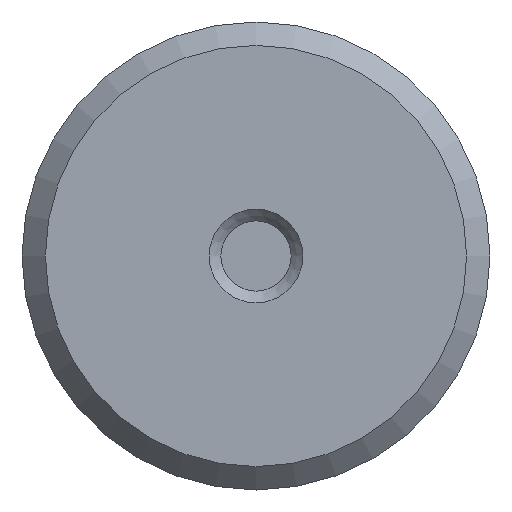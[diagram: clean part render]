
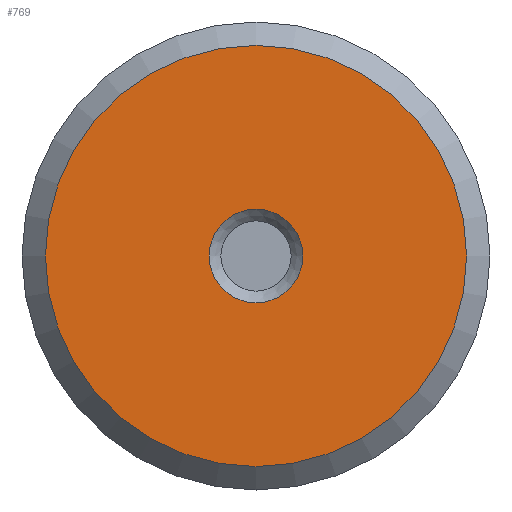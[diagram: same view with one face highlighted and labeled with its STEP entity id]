
A CAD part, left-side view. The second image highlights one B-rep face of the part: STEP entity #769.
In plain terms, the highlighted planar face has unit normal (-1, 0, 0).
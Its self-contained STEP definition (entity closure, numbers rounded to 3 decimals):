
#63=FACE_BOUND('',#193,.T.);
#79=PLANE('',#876);
#149=FACE_OUTER_BOUND('',#192,.T.);
#192=EDGE_LOOP('',(#717,#718));
#193=EDGE_LOOP('',(#719,#720));
#313=CIRCLE('',#874,2.);
#314=CIRCLE('',#875,2.);
#315=CIRCLE('',#877,9.);
#316=CIRCLE('',#878,9.);
#390=VERTEX_POINT('',#1540);
#391=VERTEX_POINT('',#1542);
#392=VERTEX_POINT('',#1546);
#393=VERTEX_POINT('',#1547);
#500=EDGE_CURVE('',#391,#390,#313,.T.);
#501=EDGE_CURVE('',#390,#391,#314,.T.);
#502=EDGE_CURVE('',#392,#393,#315,.T.);
#503=EDGE_CURVE('',#393,#392,#316,.T.);
#717=ORIENTED_EDGE('',*,*,#502,.F.);
#718=ORIENTED_EDGE('',*,*,#503,.F.);
#719=ORIENTED_EDGE('',*,*,#500,.T.);
#720=ORIENTED_EDGE('',*,*,#501,.T.);
#769=ADVANCED_FACE('',(#149,#63),#79,.T.);
#874=AXIS2_PLACEMENT_3D('',#1543,#1086,#1087);
#875=AXIS2_PLACEMENT_3D('',#1544,#1088,#1089);
#876=AXIS2_PLACEMENT_3D('',#1545,#1090,#1091);
#877=AXIS2_PLACEMENT_3D('',#1548,#1092,#1093);
#878=AXIS2_PLACEMENT_3D('',#1549,#1094,#1095);
#1086=DIRECTION('center_axis',(1.,0.,0.));
#1087=DIRECTION('ref_axis',(0.,0.,-1.));
#1088=DIRECTION('center_axis',(1.,0.,0.));
#1089=DIRECTION('ref_axis',(0.,0.,-1.));
#1090=DIRECTION('center_axis',(-1.,0.,0.));
#1091=DIRECTION('ref_axis',(0.,0.,1.));
#1092=DIRECTION('center_axis',(1.,0.,0.));
#1093=DIRECTION('ref_axis',(0.,0.,-1.));
#1094=DIRECTION('center_axis',(1.,0.,0.));
#1095=DIRECTION('ref_axis',(0.,0.,-1.));
#1540=CARTESIAN_POINT('',(-101.5,-2.,0.));
#1542=CARTESIAN_POINT('',(-101.5,2.,0.));
#1543=CARTESIAN_POINT('Origin',(-101.5,0.,0.));
#1544=CARTESIAN_POINT('Origin',(-101.5,0.,0.));
#1545=CARTESIAN_POINT('Origin',(-101.5,9.,0.));
#1546=CARTESIAN_POINT('',(-101.5,9.,0.));
#1547=CARTESIAN_POINT('',(-101.5,-9.,0.));
#1548=CARTESIAN_POINT('Origin',(-101.5,0.,0.));
#1549=CARTESIAN_POINT('Origin',(-101.5,0.,0.));
